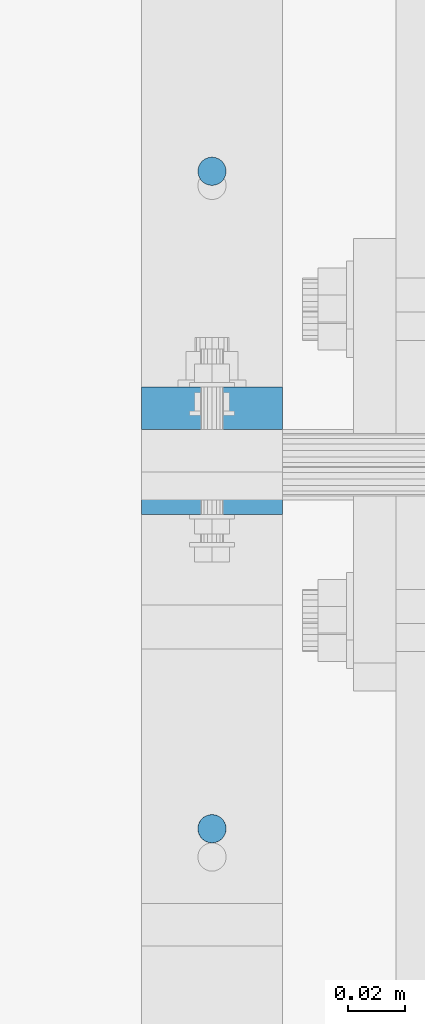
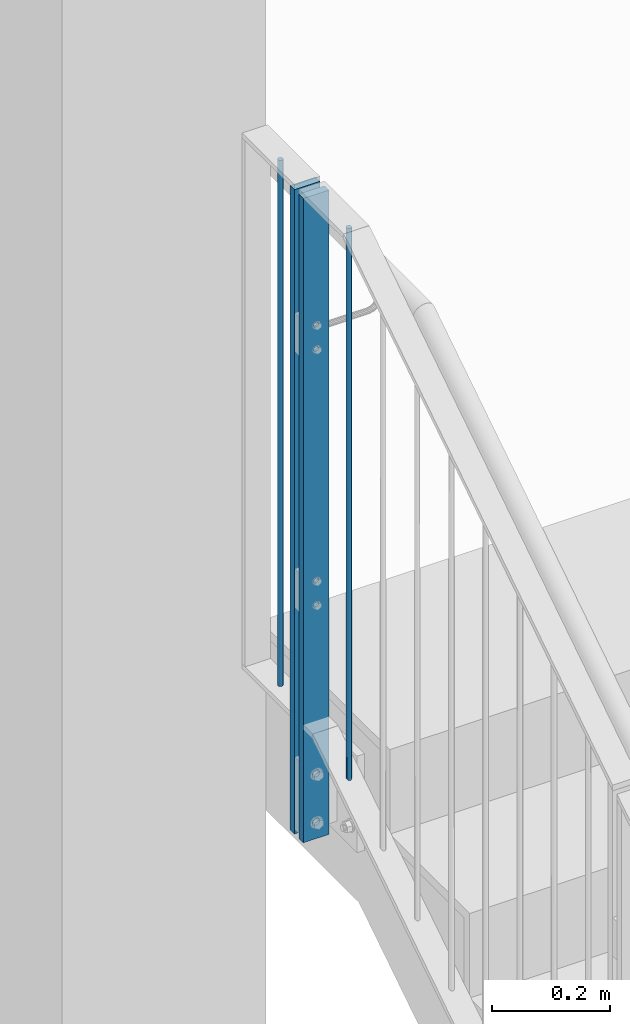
# One storey, part 52 of 296: 4 columns, 12 openings.
"""IFC2X3 building model written with IfcOpenShell, lengths in millimetres."""

import ifcopenshell
import ifcopenshell.guid

model = None  # the IFC model being written
_history = None  # IfcOwnerHistory: only IFC2X3 demands one
_inside = {}  # id of a spatial element -> (the spatial element, [elements in it])
_under = {}  # id of a project, library or spatial element -> (it, [spatial elements below it])
_declared = {}  # id of a project -> (the project, [libraries it declares])
_typed = {}  # id of a type object -> (the type object, [elements of that type])
_made_of = {}  # id of a material, layer set ... -> (it, [elements and type objects made of it])


def new_model(schema):
    """Start an empty IFC model of exactly this schema.

    Asked for "IFC4X3", IfcOpenShell would pick the latest addendum, in which some entities
    have other attributes; the version numbers below select the first issue.
    IFC2X3 requires an IfcOwnerHistory on every rooted entity: one is made here for all.
    """
    global model, _history
    if schema == "IFC4X3":
        model = ifcopenshell.file(schema_version=(4, 3, 0, 0))
    else:
        model = ifcopenshell.file(schema=schema)
    _inside.clear()
    _under.clear()
    _declared.clear()
    _typed.clear()
    _made_of.clear()
    _history = None
    if model.schema == "IFC2X3":
        org = make("IfcOrganization", Name="unknown")
        user = make(
            "IfcPersonAndOrganization",
            ThePerson=make("IfcPerson", FamilyName="unknown"),
            TheOrganization=org,
        )
        app = make(
            "IfcApplication",
            ApplicationDeveloper=org,
            Version="unknown",
            ApplicationFullName="unknown",
            ApplicationIdentifier="unknown",
        )
        _history = make(
            "IfcOwnerHistory",
            OwningUser=user,
            OwningApplication=app,
            ChangeAction="ADDED",
            CreationDate=0,
        )
    return model


def make(cls, **values):
    """One entity of the class cls with the attributes given. An attribute that is None is left unset."""
    return model.create_entity(
        cls, **{name: value for name, value in values.items() if value is not None}
    )


def entity(cls, *values):
    """Any entity or typed value of the class cls, its attributes in the order of the schema. None: left unset."""
    e = model.create_entity(cls)
    for i, value in enumerate(values):
        if value is not None:
            e[i] = value
    return e


def rooted(cls, **values):
    """An entity with a GlobalId (a new one), such as an element, a storey or a relation."""
    return make(cls, GlobalId=ifcopenshell.guid.new(), OwnerHistory=_history, **values)


def si_unit(unit_type, name, prefix=None):
    """IfcSIUnit, for example si_unit("LENGTHUNIT", "METRE", prefix="MILLI")."""
    return make("IfcSIUnit", UnitType=unit_type, Prefix=prefix, Name=name)


def converted_unit(unit_type, name, factor, base, dimensions=None, offset=None):
    """IfcConversionBasedUnit, such as the inch: factor (a typed value) times the base unit."""
    return make(
        "IfcConversionBasedUnit"
        if offset is None
        else "IfcConversionBasedUnitWithOffset",
        ConversionOffset=offset,
        Dimensions=None
        if dimensions is None
        else entity("IfcDimensionalExponents", *dimensions),
        UnitType=unit_type,
        Name=name,
        ConversionFactor=make(
            "IfcMeasureWithUnit", ValueComponent=factor, UnitComponent=base
        ),
    )


def assignment(units):
    """IfcUnitAssignment: the units of a project."""
    return None if units is None else make("IfcUnitAssignment", Units=units)


def point(xyz):
    """IfcCartesianPoint."""
    return None if xyz is None else make("IfcCartesianPoint", Coordinates=xyz)


def direction(xyz):
    """IfcDirection."""
    return None if xyz is None else make("IfcDirection", DirectionRatios=xyz)


def frame(location, z_axis=None, x_axis=None):
    """IfcAxis2Placement3D, a coordinate frame: its origin and axes. An axis left out is left unset."""
    return make(
        "IfcAxis2Placement3D",
        Location=point(location),
        Axis=direction(z_axis),
        RefDirection=direction(x_axis),
    )


def frame_2d(location, x_axis=None):
    """IfcAxis2Placement2D, a coordinate frame in the plane: its origin and x axis."""
    return make(
        "IfcAxis2Placement2D", Location=point(location), RefDirection=direction(x_axis)
    )


def origin():
    """The frame at (0, 0, 0) with its axes left unset."""
    return frame((0.0, 0.0, 0.0))


def origin_with_axes():
    """The frame at (0, 0, 0) with the z axis (0, 0, 1) and the x axis (1, 0, 0) written out."""
    return frame((0.0, 0.0, 0.0), z_axis=(0.0, 0.0, 1.0), x_axis=(1.0, 0.0, 0.0))


def origin_2d():
    """The frame at (0, 0) in the plane with its x axis left unset."""
    return frame_2d((0.0, 0.0))


def place(relative_to, where):
    """IfcLocalPlacement: puts the frame where relative to a parent placement (None: the world)."""
    return make(
        "IfcLocalPlacement", PlacementRelTo=relative_to, RelativePlacement=where
    )


def context(
    kind, dimensions, precision=None, world=None, true_north=None, identifier=None
):
    """IfcGeometricRepresentationContext, for example the 3D "Model" context."""
    return make(
        "IfcGeometricRepresentationContext",
        ContextIdentifier=identifier,
        ContextType=kind,
        CoordinateSpaceDimension=dimensions,
        Precision=precision,
        WorldCoordinateSystem=world,
        TrueNorth=true_north,
    )


def project(units=None, contexts=None):
    """IfcProject with its units and contexts."""
    return rooted(
        "IfcProject",
        Name="project",
        RepresentationContexts=contexts,
        UnitsInContext=assignment(units),
    )


def spatial(cls, under=None, at=None, **own):
    """A site, building, storey or space (cls), placed at a placement, below another one or the project."""
    s = rooted(cls, ObjectPlacement=at, **own)
    if under is not None:
        _under.setdefault(under.id(), (under, []))[1].append(s)
    return s


def profile(cls, at=None, kind="AREA", **sizes):
    """A parametric profile (cls). Its sizes go by their IFC names, for example OverallWidth=200.0."""
    return make(cls, ProfileType=kind, Position=at, **sizes)


def rectangle(**sizes):
    """IfcRectangleProfileDef."""
    return profile("IfcRectangleProfileDef", **sizes)


def circle(**sizes):
    """IfcCircleProfileDef."""
    return profile("IfcCircleProfileDef", **sizes)


def extrude(swept, where, along, depth):
    """IfcExtrudedAreaSolid: the profile swept, set in the frame where, extruded along a direction by depth."""
    return make(
        "IfcExtrudedAreaSolid",
        SweptArea=swept,
        Position=where,
        ExtrudedDirection=direction(along),
        Depth=depth,
    )


def clip(a, b, op="DIFFERENCE"):
    """IfcBooleanClippingResult: the solid a cut by the half space b."""
    return make(
        "IfcBooleanClippingResult", Operator=op, FirstOperand=a, SecondOperand=b
    )


def halfspace(plane, agree):
    """IfcHalfSpaceSolid: all space on one side of the plane z = 0 of the frame plane."""
    return make(
        "IfcHalfSpaceSolid",
        BaseSurface=make("IfcPlane", Position=plane),
        AgreementFlag=agree,
    )


def shape(context_of_items, identifier, shape_type, items):
    """IfcShapeRepresentation: the items that make up one representation, for example the "Body"."""
    return make(
        "IfcShapeRepresentation",
        ContextOfItems=context_of_items,
        RepresentationIdentifier=identifier,
        RepresentationType=shape_type,
        Items=items,
    )


def material(Name=None, Category=None):
    """IfcMaterial."""
    return make("IfcMaterial", Name=Name, Category=Category)


def made_of(thing, what):
    """Note that an element or type object is made of a material, layer set ...; save() writes the relation."""
    if what is not None:
        _made_of.setdefault(what.id(), (what, []))[1].append(thing)
    return thing


def element(
    cls,
    number,
    at=None,
    inside=None,
    cuts=None,
    type_object=None,
    material=None,
    context=None,
    identifier="Body",
    shape_type=None,
    held_by="IfcProductDefinitionShape",
    body=None,
    shapes=None,
    **own,
):
    """One element of the class cls, such as IfcWall. Its Tag is "e" and its number.

    at: its placement. inside: the storey or other place that contains it. cuts: it is an
    opening in that element (IfcRelVoidsElement). A single representation is given by context,
    identifier, shape_type and body (its items); several are given by shapes. held_by: the class
    of the entity that holds the representations. save() writes the other relations.
    """
    e = rooted(cls, Tag="e%d" % number, ObjectPlacement=at, **own)
    if body is not None:
        shapes = [shape(context, identifier, shape_type, body)]
    if shapes is not None:
        e.Representation = make(held_by, Representations=shapes)
    if inside is not None:
        _inside.setdefault(inside.id(), (inside, []))[1].append(e)
    if cuts is not None:
        rooted(
            "IfcRelVoidsElement", RelatingBuildingElement=cuts, RelatedOpeningElement=e
        )
    if type_object is not None:
        _typed.setdefault(type_object.id(), (type_object, []))[1].append(e)
    return made_of(e, material)


def aggregate(whole, parts):
    """IfcRelAggregates: a whole, such as a stair, and the parts it consists of."""
    return rooted("IfcRelAggregates", RelatingObject=whole, RelatedObjects=parts)


def save(model, path):
    """Write the relations noted so far, then the file.

    IfcRelAggregates (storeys below a building ...), IfcRelContainedInSpatialStructure (elements
    in a storey), IfcRelDefinesByType, IfcRelAssociatesMaterial and IfcRelDeclares: one each for
    every whole, place, type object, material and project.
    """
    for whole, parts in _under.values():
        aggregate(whole, parts)
    for where, things in _inside.values():
        rooted(
            "IfcRelContainedInSpatialStructure",
            RelatedElements=things,
            RelatingStructure=where,
        )
    for kind, things in _typed.values():
        rooted("IfcRelDefinesByType", RelatedObjects=things, RelatingType=kind)
    for what, things in _made_of.values():
        rooted("IfcRelAssociatesMaterial", RelatedObjects=things, RelatingMaterial=what)
    for by, libraries in _declared.values():
        rooted("IfcRelDeclares", RelatingContext=by, RelatedDefinitions=libraries)
    model.write(path)


model = new_model("IFC2X3")

# Units and contexts
model_context = context("Model", 3, precision=1e-09, world=origin_with_axes())
ifc_project = project(units=[si_unit("LENGTHUNIT", "METRE", prefix="MILLI"), si_unit("AREAUNIT", "SQUARE_METRE"), si_unit("VOLUMEUNIT", "CUBIC_METRE"), converted_unit("PLANEANGLEUNIT", "DEGREE", entity("IfcPlaneAngleMeasure", 0.01745329), si_unit("PLANEANGLEUNIT", "RADIAN"), dimensions=[0, 0, 0, 0, 0, 0, 0])], contexts=[model_context])

# Site, building, storey
site_placement = place(None, origin_with_axes())
site = spatial("IfcSite", under=ifc_project, at=site_placement, Name="TZD-S?d | Treppenhausgel?nder", CompositionType="ELEMENT")
building_placement = place(site_placement, origin_with_axes())
building = spatial("IfcBuilding", under=site, at=building_placement, Name="Struktur 1", CompositionType="ELEMENT")
storey_placement = place(building_placement, origin_with_axes())
storey = spatial("IfcBuildingStorey", under=building, at=storey_placement, Name="Default Storey", CompositionType="ELEMENT", Elevation=0.0)

# Column, openings
ifc_material = material(Name="S235JR")
column_1_placement = place(None, frame((-45.0, -465.0, 7105.0), z_axis=(0.0, 0.0, -1.0), x_axis=(0.0, -1.0, 0.0)))
column_1 = element("IfcColumn", 1, at=column_1_placement, inside=storey, material=ifc_material, Name="-", ObjectType="-", context=model_context, shape_type="SweptSolid", body=[
    extrude(rectangle(XDim=15.0, YDim=50.0, at=origin_2d()), origin(), (0.0, 0.0, -1.0), 1334.999),
])
opening_1_placement = place(column_1_placement, frame((-8.0, 0.0, -1039.999999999), z_axis=(1.0, 0.0, 0.0), x_axis=(0.0, -1.0, 0.0)))
element("IfcOpeningElement", 2, at=opening_1_placement, cuts=column_1, ObjectType="Opening", context=model_context, shape_type="SweptSolid", body=[
    extrude(circle(Radius=5.001, at=frame_2d((0.0, 25.0), x_axis=(1.0, 0.0))), origin(), (0.0, 0.0, 1.0), 16.0),
])
opening_2_placement = place(column_1_placement, frame((-8.0, 0.0, -1039.999999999), z_axis=(1.0, 0.0, 0.0), x_axis=(0.0, -1.0, 0.0)))
element("IfcOpeningElement", 3, at=opening_2_placement, cuts=column_1, ObjectType="Opening", context=model_context, shape_type="SweptSolid", body=[
    extrude(circle(Radius=5.001, at=frame_2d((0.0, -25.0), x_axis=(1.0, 0.0))), origin(), (0.0, 0.0, 1.0), 16.0),
])
opening_3_placement = place(column_1_placement, frame((-8.0, 0.0, -85.0), z_axis=(1.0, 0.0, 0.0), x_axis=(0.0, -1.0, 0.0)))
element("IfcOpeningElement", 4, at=opening_3_placement, cuts=column_1, ObjectType="Opening", context=model_context, shape_type="SweptSolid", body=[
    extrude(circle(Radius=7.001, at=frame_2d((0.0, 50.0), x_axis=(1.0, 0.0))), origin(), (0.0, 0.0, 1.0), 16.0),
])
opening_4_placement = place(column_1_placement, frame((-8.0, 0.0, -85.0), z_axis=(1.0, 0.0, 0.0), x_axis=(0.0, -1.0, 0.0)))
element("IfcOpeningElement", 5, at=opening_4_placement, cuts=column_1, ObjectType="Opening", context=model_context, shape_type="SweptSolid", body=[
    extrude(circle(Radius=7.001, at=frame_2d((0.0, -50.0), x_axis=(1.0, 0.0))), origin(), (0.0, 0.0, 1.0), 16.0),
])
opening_5_placement = place(column_1_placement, frame((-8.0, 0.0, -509.999999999), z_axis=(1.0, 0.0, 0.0), x_axis=(0.0, -1.0, 0.0)))
element("IfcOpeningElement", 6, at=opening_5_placement, cuts=column_1, ObjectType="Opening", context=model_context, shape_type="SweptSolid", body=[
    extrude(circle(Radius=5.001, at=frame_2d((0.0, 25.0), x_axis=(1.0, 0.0))), origin(), (0.0, 0.0, 1.0), 16.0),
])
opening_6_placement = place(column_1_placement, frame((-8.0, 0.0, -509.999999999), z_axis=(1.0, 0.0, 0.0), x_axis=(0.0, -1.0, 0.0)))
element("IfcOpeningElement", 7, at=opening_6_placement, cuts=column_1, ObjectType="Opening", context=model_context, shape_type="SweptSolid", body=[
    extrude(circle(Radius=5.001, at=frame_2d((0.0, -25.0), x_axis=(1.0, 0.0))), origin(), (0.0, 0.0, 1.0), 16.0),
])

column_2_placement = place(None, frame((-45.0, -495.0, 7105.0), z_axis=(0.0, 0.0, 1.0), x_axis=(0.0, 1.0, 0.0)))
column_2 = element("IfcColumn", 8, at=column_2_placement, inside=storey, material=ifc_material, Name="-", ObjectType="-", context=model_context, shape_type="SweptSolid", body=[
    extrude(rectangle(XDim=15.0, YDim=50.0, at=origin_2d()), origin(), (0.0, 0.0, 1.0), 1334.999),
])
opening_7_placement = place(column_2_placement, frame((8.0, 0.0, 85.0), z_axis=(-1.0, 0.0, 0.0), x_axis=(0.0, -1.0, 0.0)))
element("IfcOpeningElement", 9, at=opening_7_placement, cuts=column_2, ObjectType="Opening", context=model_context, shape_type="SweptSolid", body=[
    extrude(circle(Radius=7.001, at=frame_2d((0.0, 50.0), x_axis=(1.0, 0.0))), origin(), (0.0, 0.0, 1.0), 16.0),
])
opening_8_placement = place(column_2_placement, frame((8.0, 0.0, 85.0), z_axis=(-1.0, 0.0, 0.0), x_axis=(0.0, -1.0, 0.0)))
element("IfcOpeningElement", 10, at=opening_8_placement, cuts=column_2, ObjectType="Opening", context=model_context, shape_type="SweptSolid", body=[
    extrude(circle(Radius=7.001, at=frame_2d((0.0, -50.0), x_axis=(1.0, 0.0))), origin(), (0.0, 0.0, 1.0), 16.0),
])
opening_9_placement = place(column_2_placement, frame((8.0, 0.0, 1039.999999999), z_axis=(-1.0, 0.0, 0.0), x_axis=(0.0, -1.0, 0.0)))
element("IfcOpeningElement", 11, at=opening_9_placement, cuts=column_2, ObjectType="Opening", context=model_context, shape_type="SweptSolid", body=[
    extrude(circle(Radius=5.001, at=frame_2d((0.0, 25.0), x_axis=(1.0, 0.0))), origin(), (0.0, 0.0, 1.0), 16.0),
])
opening_10_placement = place(column_2_placement, frame((8.0, 0.0, 1039.999999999), z_axis=(-1.0, 0.0, 0.0), x_axis=(0.0, -1.0, 0.0)))
element("IfcOpeningElement", 12, at=opening_10_placement, cuts=column_2, ObjectType="Opening", context=model_context, shape_type="SweptSolid", body=[
    extrude(circle(Radius=5.001, at=frame_2d((0.0, -25.0), x_axis=(1.0, 0.0))), origin(), (0.0, 0.0, 1.0), 16.0),
])
opening_11_placement = place(column_2_placement, frame((8.0, 0.0, 509.999999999), z_axis=(-1.0, 0.0, 0.0), x_axis=(0.0, -1.0, 0.0)))
element("IfcOpeningElement", 13, at=opening_11_placement, cuts=column_2, ObjectType="Opening", context=model_context, shape_type="SweptSolid", body=[
    extrude(circle(Radius=5.001, at=frame_2d((0.0, 25.0), x_axis=(1.0, 0.0))), origin(), (0.0, 0.0, 1.0), 16.0),
])
opening_12_placement = place(column_2_placement, frame((8.0, 0.0, 509.999999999), z_axis=(-1.0, 0.0, 0.0), x_axis=(0.0, -1.0, 0.0)))
element("IfcOpeningElement", 14, at=opening_12_placement, cuts=column_2, ObjectType="Opening", context=model_context, shape_type="SweptSolid", body=[
    extrude(circle(Radius=5.001, at=frame_2d((0.0, -25.0), x_axis=(1.0, 0.0))), origin(), (0.0, 0.0, 1.0), 16.0),
])

# Columns
column_3_placement = place(None, frame((-45.0, -613.61111111, 7284.561149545), z_axis=(0.0, 0.0, 1.0), x_axis=(0.0, 1.0, 0.0)))
element("IfcColumn", 15, at=column_3_placement, inside=storey, material=ifc_material, Name="-", ObjectType="-", context=model_context, shape_type="Clipping", body=[
    clip(extrude(circle(Radius=5.0, at=origin_2d()), origin(), (0.0, 0.0, 1.0), 1155.437850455), halfspace(frame((-2891.976269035, -45.0, -1851.697842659), z_axis=(-0.542183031, 0.0, 0.840260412), x_axis=(0.0, -1.0, 0.0)), True)),
])
column_4_placement = place(None, frame((-45.0, -381.25, 7349.999), z_axis=(0.0, 0.0, 1.0), x_axis=(0.0, 1.0, 0.0)))
element("IfcColumn", 16, at=column_4_placement, inside=storey, material=ifc_material, Name="-", ObjectType="-", context=model_context, shape_type="SweptSolid", body=[
    extrude(circle(Radius=5.0, at=origin_2d()), origin(), (0.0, 0.0, 1.0), 1090.0),
])

save(model, "model.ifc")
